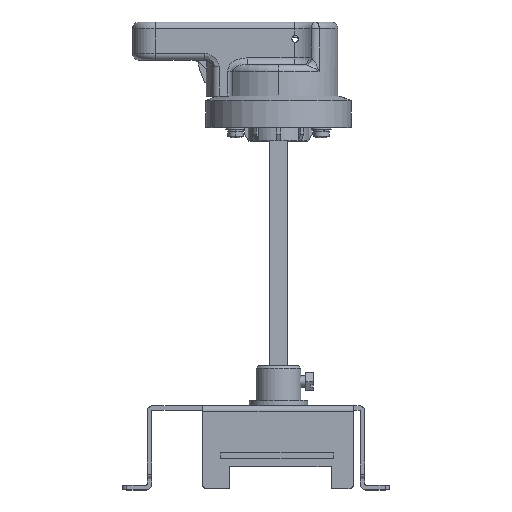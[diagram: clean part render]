
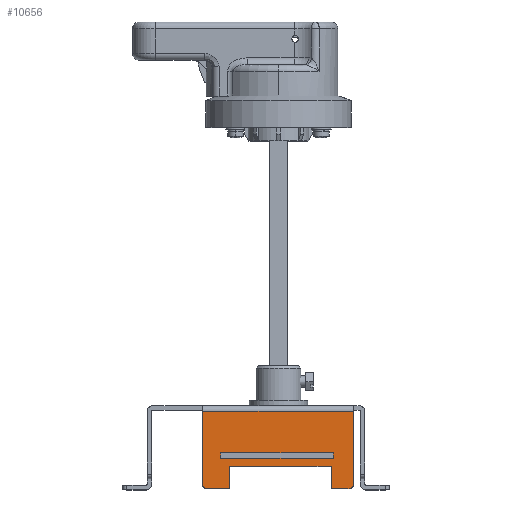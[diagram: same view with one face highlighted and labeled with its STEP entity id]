
A CAD part, top view. The second image highlights one B-rep face of the part: STEP entity #10656.
In plain terms, the highlighted planar face has unit normal (0, 0, 1).
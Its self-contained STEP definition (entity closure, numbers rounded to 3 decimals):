
#68 = EDGE_LOOP ( 'NONE', ( #37735, #19296, #48214, #32684, #49183, #14986, #39351, #2779, #5948, #18471, #28188, #4520 ) ) ;
#985 = CARTESIAN_POINT ( 'NONE',  ( 41.394, 15.345, 235. ) ) ;
#1212 = VERTEX_POINT ( 'NONE', #46283 ) ;
#2011 = DIRECTION ( 'NONE',  ( 0., 0., -1. ) ) ;
#2050 = EDGE_CURVE ( 'NONE', #46175, #25204, #39270, .T. ) ;
#2074 = CARTESIAN_POINT ( 'NONE',  ( 41.394, 12.845, 235. ) ) ;
#2465 = EDGE_CURVE ( 'NONE', #8534, #20335, #17620, .T. ) ;
#2536 = EDGE_CURVE ( 'NONE', #39051, #40336, #46042, .T. ) ;
#2779 = ORIENTED_EDGE ( 'NONE', *, *, #24988, .T. ) ;
#2840 = VECTOR ( 'NONE', #10936, 1000. ) ;
#2918 = DIRECTION ( 'NONE',  ( 0., 1., 0. ) ) ;
#3090 = VECTOR ( 'NONE', #45358, 1000. ) ;
#3737 = CARTESIAN_POINT ( 'NONE',  ( 35.394, 1.345, 235. ) ) ;
#4520 = ORIENTED_EDGE ( 'NONE', *, *, #46386, .T. ) ;
#4855 = LINE ( 'NONE', #35635, #3090 ) ;
#5569 = CARTESIAN_POINT ( 'NONE',  ( 98.594, 1.345, 235. ) ) ;
#5948 = ORIENTED_EDGE ( 'NONE', *, *, #23584, .T. ) ;
#6053 = CARTESIAN_POINT ( 'NONE',  ( 91.594, 0.345, 235. ) ) ;
#7163 = EDGE_CURVE ( 'NONE', #30331, #20335, #27860, .T. ) ;
#7833 = CARTESIAN_POINT ( 'NONE',  ( 45.394, 0.345, 235. ) ) ;
#8035 = CARTESIAN_POINT ( 'NONE',  ( 44.394, -0.655, 235. ) ) ;
#8471 = LINE ( 'NONE', #39335, #2840 ) ;
#8534 = VERTEX_POINT ( 'NONE', #39002 ) ;
#9284 = EDGE_CURVE ( 'NONE', #9434, #19717, #33726, .T. ) ;
#9434 = VERTEX_POINT ( 'NONE', #26369 ) ;
#10223 = DIRECTION ( 'NONE',  ( -1., 0., 0. ) ) ;
#10656 = ADVANCED_FACE ( 'NONE', ( #18253, #31151 ), #40928, .F. ) ;
#10732 = DIRECTION ( 'NONE',  ( 1., 0., 0. ) ) ;
#10936 = DIRECTION ( 'NONE',  ( 0., 1., 0. ) ) ;
#11304 = EDGE_CURVE ( 'NONE', #1212, #25204, #42926, .T. ) ;
#11538 = CARTESIAN_POINT ( 'NONE',  ( 41.394, 12.845, 235. ) ) ;
#11810 = VECTOR ( 'NONE', #15200, 1000. ) ;
#12173 = VECTOR ( 'NONE', #50239, 1000. ) ;
#13143 = DIRECTION ( 'NONE',  ( 0., -1., 0. ) ) ;
#13298 = CARTESIAN_POINT ( 'NONE',  ( 100.594, 1.345, 235. ) ) ;
#13334 = DIRECTION ( 'NONE',  ( 0., 0., 1. ) ) ;
#13472 = CIRCLE ( 'NONE', #23135, 2. ) ;
#14342 = VECTOR ( 'NONE', #13143, 1000. ) ;
#14986 = ORIENTED_EDGE ( 'NONE', *, *, #26350, .T. ) ;
#15200 = DIRECTION ( 'NONE',  ( -1., 0., 0. ) ) ;
#15616 = VERTEX_POINT ( 'NONE', #2074 ) ;
#15790 = VECTOR ( 'NONE', #2918, 1000. ) ;
#16960 = DIRECTION ( 'NONE',  ( -1., 0., 0. ) ) ;
#17370 = DIRECTION ( 'NONE',  ( -1., 0., 0. ) ) ;
#17620 = LINE ( 'NONE', #37083, #11810 ) ;
#17837 = LINE ( 'NONE', #33072, #46044 ) ;
#18253 = FACE_BOUND ( 'NONE', #39305, .T. ) ;
#18471 = ORIENTED_EDGE ( 'NONE', *, *, #2050, .T. ) ;
#19296 = ORIENTED_EDGE ( 'NONE', *, *, #48265, .T. ) ;
#19717 = VERTEX_POINT ( 'NONE', #46222 ) ;
#20335 = VERTEX_POINT ( 'NONE', #35096 ) ;
#20608 = DIRECTION ( 'NONE',  ( 0., 1., 0. ) ) ;
#20735 = ORIENTED_EDGE ( 'NONE', *, *, #45221, .F. ) ;
#21011 = CARTESIAN_POINT ( 'NONE',  ( 33.394, -0.655, 235. ) ) ;
#21630 = AXIS2_PLACEMENT_3D ( 'NONE', #6053, #13334, #37714 ) ;
#23135 = AXIS2_PLACEMENT_3D ( 'NONE', #5569, #50188, #36377 ) ;
#23269 = DIRECTION ( 'NONE',  ( -1., 0., 0. ) ) ;
#23584 = EDGE_CURVE ( 'NONE', #26437, #46175, #8471, .T. ) ;
#24127 = CARTESIAN_POINT ( 'NONE',  ( 91.594, -0.655, 235. ) ) ;
#24988 = EDGE_CURVE ( 'NONE', #39051, #26437, #13472, .T. ) ;
#25037 = DIRECTION ( 'NONE',  ( 0., 1., 0. ) ) ;
#25204 = VERTEX_POINT ( 'NONE', #45405 ) ;
#25338 = ORIENTED_EDGE ( 'NONE', *, *, #44996, .F. ) ;
#25518 = AXIS2_PLACEMENT_3D ( 'NONE', #45789, #2011, #43358 ) ;
#25847 = CARTESIAN_POINT ( 'NONE',  ( 90.594, -0.655, 235. ) ) ;
#26304 = CARTESIAN_POINT ( 'NONE',  ( 91.594, 15.345, 235. ) ) ;
#26350 = EDGE_CURVE ( 'NONE', #31430, #40336, #37514, .T. ) ;
#26369 = CARTESIAN_POINT ( 'NONE',  ( 91.594, 12.845, 235. ) ) ;
#26437 = VERTEX_POINT ( 'NONE', #13298 ) ;
#27188 = EDGE_CURVE ( 'NONE', #32368, #28041, #4855, .T. ) ;
#27700 = CARTESIAN_POINT ( 'NONE',  ( 41.394, 15.345, 235. ) ) ;
#27860 = LINE ( 'NONE', #37673, #47084 ) ;
#28041 = VERTEX_POINT ( 'NONE', #32850 ) ;
#28188 = ORIENTED_EDGE ( 'NONE', *, *, #11304, .F. ) ;
#28891 = DIRECTION ( 'NONE',  ( 0., 0., 1. ) ) ;
#28979 = CARTESIAN_POINT ( 'NONE',  ( 100.594, -0.655, 235. ) ) ;
#29037 = CIRCLE ( 'NONE', #45519, 2. ) ;
#29081 = EDGE_CURVE ( 'NONE', #31430, #8534, #46981, .T. ) ;
#29476 = VECTOR ( 'NONE', #10732, 1000. ) ;
#30171 = AXIS2_PLACEMENT_3D ( 'NONE', #32971, #28891, #23269 ) ;
#30331 = VERTEX_POINT ( 'NONE', #7833 ) ;
#31151 = FACE_OUTER_BOUND ( 'NONE', #68, .T. ) ;
#31430 = VERTEX_POINT ( 'NONE', #46305 ) ;
#31710 = CIRCLE ( 'NONE', #30171, 1. ) ;
#32100 = DIRECTION ( 'NONE',  ( 0., 0., 1. ) ) ;
#32368 = VERTEX_POINT ( 'NONE', #8035 ) ;
#32684 = ORIENTED_EDGE ( 'NONE', *, *, #2465, .F. ) ;
#32721 = VERTEX_POINT ( 'NONE', #27700 ) ;
#32850 = CARTESIAN_POINT ( 'NONE',  ( 35.394, -0.655, 235. ) ) ;
#32971 = CARTESIAN_POINT ( 'NONE',  ( 44.394, 0.345, 235. ) ) ;
#33072 = CARTESIAN_POINT ( 'NONE',  ( 41.394, 15.345, 235. ) ) ;
#33726 = LINE ( 'NONE', #26304, #15790 ) ;
#34377 = CARTESIAN_POINT ( 'NONE',  ( 98.594, -0.655, 235. ) ) ;
#35096 = CARTESIAN_POINT ( 'NONE',  ( 45.394, 9.345, 235. ) ) ;
#35176 = CARTESIAN_POINT ( 'NONE',  ( 8.144, 33.845, 235. ) ) ;
#35635 = CARTESIAN_POINT ( 'NONE',  ( 45.394, -0.655, 235. ) ) ;
#36377 = DIRECTION ( 'NONE',  ( -1., 0., 0. ) ) ;
#37083 = CARTESIAN_POINT ( 'NONE',  ( 90.594, 9.345, 235. ) ) ;
#37321 = VECTOR ( 'NONE', #17370, 1000. ) ;
#37399 = VECTOR ( 'NONE', #25037, 1000. ) ;
#37514 = CIRCLE ( 'NONE', #21630, 1. ) ;
#37673 = CARTESIAN_POINT ( 'NONE',  ( 45.394, -0.655, 235. ) ) ;
#37714 = DIRECTION ( 'NONE',  ( -1., 0., 0. ) ) ;
#37735 = ORIENTED_EDGE ( 'NONE', *, *, #27188, .F. ) ;
#37949 = DIRECTION ( 'NONE',  ( -1., 0., 0. ) ) ;
#38808 = VECTOR ( 'NONE', #37949, 1000. ) ;
#39002 = CARTESIAN_POINT ( 'NONE',  ( 90.594, 9.345, 235. ) ) ;
#39051 = VERTEX_POINT ( 'NONE', #34377 ) ;
#39270 = LINE ( 'NONE', #35176, #37321 ) ;
#39299 = CARTESIAN_POINT ( 'NONE',  ( 100.594, 33.845, 235. ) ) ;
#39305 = EDGE_LOOP ( 'NONE', ( #42417, #20735, #25338, #49845 ) ) ;
#39335 = CARTESIAN_POINT ( 'NONE',  ( 100.594, -0.655, 235. ) ) ;
#39351 = ORIENTED_EDGE ( 'NONE', *, *, #2536, .F. ) ;
#39927 = LINE ( 'NONE', #985, #14342 ) ;
#40336 = VERTEX_POINT ( 'NONE', #24127 ) ;
#40928 = PLANE ( 'NONE',  #25518 ) ;
#42139 = EDGE_CURVE ( 'NONE', #15616, #9434, #49691, .T. ) ;
#42417 = ORIENTED_EDGE ( 'NONE', *, *, #42139, .F. ) ;
#42926 = LINE ( 'NONE', #21011, #12173 ) ;
#43358 = DIRECTION ( 'NONE',  ( -1., 0., 0. ) ) ;
#44996 = EDGE_CURVE ( 'NONE', #19717, #32721, #17837, .T. ) ;
#45221 = EDGE_CURVE ( 'NONE', #32721, #15616, #39927, .T. ) ;
#45358 = DIRECTION ( 'NONE',  ( -1., 0., 0. ) ) ;
#45405 = CARTESIAN_POINT ( 'NONE',  ( 33.394, 33.845, 235. ) ) ;
#45519 = AXIS2_PLACEMENT_3D ( 'NONE', #3737, #32100, #10223 ) ;
#45789 = CARTESIAN_POINT ( 'NONE',  ( 8.144, 1.345, 235. ) ) ;
#46042 = LINE ( 'NONE', #28979, #38808 ) ;
#46044 = VECTOR ( 'NONE', #16960, 1000. ) ;
#46175 = VERTEX_POINT ( 'NONE', #39299 ) ;
#46222 = CARTESIAN_POINT ( 'NONE',  ( 91.594, 15.345, 235. ) ) ;
#46283 = CARTESIAN_POINT ( 'NONE',  ( 33.394, 1.345, 235. ) ) ;
#46305 = CARTESIAN_POINT ( 'NONE',  ( 90.594, 0.345, 235. ) ) ;
#46386 = EDGE_CURVE ( 'NONE', #1212, #28041, #29037, .T. ) ;
#46981 = LINE ( 'NONE', #25847, #37399 ) ;
#47084 = VECTOR ( 'NONE', #20608, 1000. ) ;
#48214 = ORIENTED_EDGE ( 'NONE', *, *, #7163, .T. ) ;
#48265 = EDGE_CURVE ( 'NONE', #32368, #30331, #31710, .T. ) ;
#49183 = ORIENTED_EDGE ( 'NONE', *, *, #29081, .F. ) ;
#49691 = LINE ( 'NONE', #11538, #29476 ) ;
#49845 = ORIENTED_EDGE ( 'NONE', *, *, #9284, .F. ) ;
#50188 = DIRECTION ( 'NONE',  ( 0., 0., 1. ) ) ;
#50239 = DIRECTION ( 'NONE',  ( 0., 1., 0. ) ) ;
